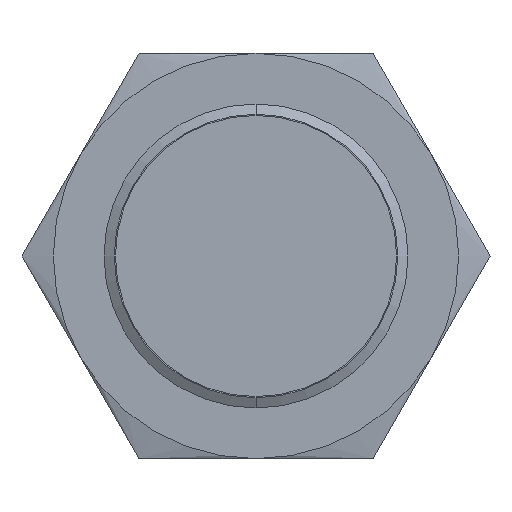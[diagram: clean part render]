
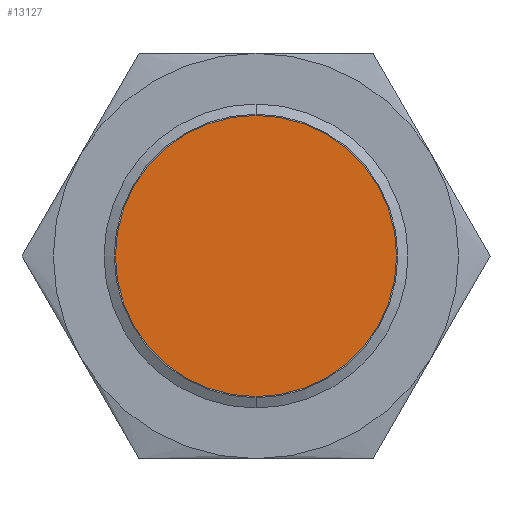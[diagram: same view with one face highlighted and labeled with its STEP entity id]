
A CAD part, left-side view. The second image highlights one B-rep face of the part: STEP entity #13127.
In plain terms, the highlighted planar face has unit normal (-1, 0, 0).
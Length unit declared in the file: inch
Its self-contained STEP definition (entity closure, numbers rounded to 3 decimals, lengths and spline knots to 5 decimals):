
#3366 = ORIENTED_EDGE ( 'NONE', *, *, #12373, .F. ) ;
#5028 = CARTESIAN_POINT ( 'NONE',  ( 0., 0., 0.3275 ) ) ;
#5128 = CIRCLE ( 'NONE', #5129, 0.3275 ) ;
#5129 = AXIS2_PLACEMENT_3D ( 'NONE', #5130, #5131, #5132 ) ;
#5130 = CARTESIAN_POINT ( 'NONE',  ( 0., 0., 0. ) ) ;
#5131 = DIRECTION ( 'NONE',  ( 1., 0., 0. ) ) ;
#5132 = DIRECTION ( 'NONE',  ( 0., 0., 1. ) ) ;
#5951 = CARTESIAN_POINT ( 'NONE',  ( 0., 0., -0.3275 ) ) ;
#7118 = FACE_OUTER_BOUND ( 'NONE', #13067, .T. ) ;
#7119 = PLANE ( 'NONE',  #7124 ) ;
#7124 = AXIS2_PLACEMENT_3D ( 'NONE', #7125, #7126, #7127 ) ;
#7125 = CARTESIAN_POINT ( 'NONE',  ( 0., 0., 0. ) ) ;
#7126 = DIRECTION ( 'NONE',  ( 1., 0., 0. ) ) ;
#7127 = DIRECTION ( 'NONE',  ( 0., 0., -1. ) ) ;
#7314 = CIRCLE ( 'NONE', #7315, 0.3275 ) ;
#7315 = AXIS2_PLACEMENT_3D ( 'NONE', #7316, #7317, #7318 ) ;
#7316 = CARTESIAN_POINT ( 'NONE',  ( 0., 0., 0. ) ) ;
#7317 = DIRECTION ( 'NONE',  ( 1., 0., 0. ) ) ;
#7318 = DIRECTION ( 'NONE',  ( 0., 0., 1. ) ) ;
#12200 = VERTEX_POINT ( 'NONE', #5028 ) ;
#12373 = EDGE_CURVE ( 'NONE', #12653, #12200, #5128, .T. ) ;
#12653 = VERTEX_POINT ( 'NONE', #5951 ) ;
#12928 = ORIENTED_EDGE ( 'NONE', *, *, #13228, .F. ) ;
#13067 = EDGE_LOOP ( 'NONE', ( #12928, #3366 ) ) ;
#13127 = ADVANCED_FACE ( 'NONE', ( #7118 ), #7119, .F. ) ;
#13228 = EDGE_CURVE ( 'NONE', #12200, #12653, #7314, .T. ) ;
